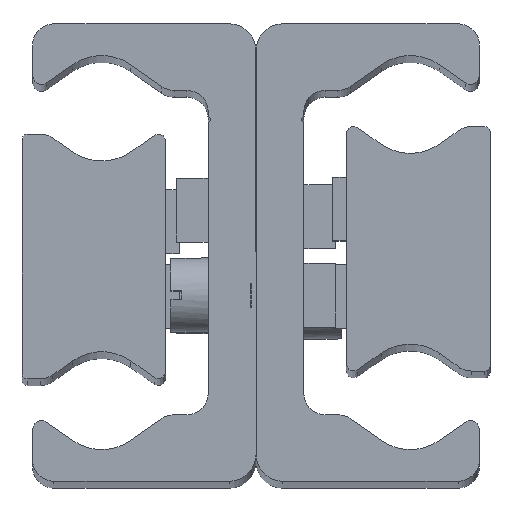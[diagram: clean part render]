
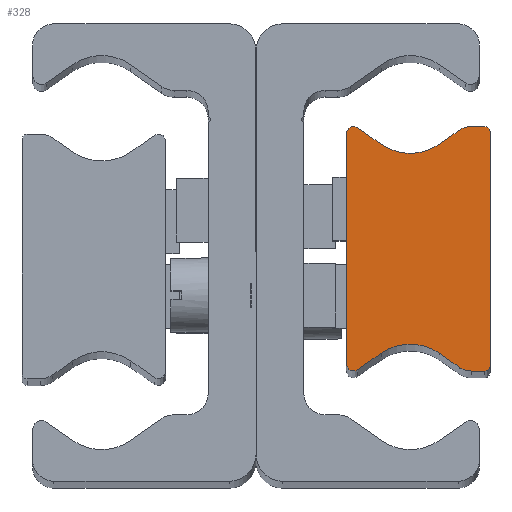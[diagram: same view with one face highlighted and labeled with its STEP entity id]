
A CAD part, top view. The second image highlights one B-rep face of the part: STEP entity #328.
In plain terms, the highlighted planar face has unit normal (0, 0, 1) as drawn and (0, 0, -1) by its records, which use the part's own axes.
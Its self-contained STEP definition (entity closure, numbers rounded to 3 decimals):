
#328 = ADVANCED_FACE( '', ( #716 ), #717, .F. );
#716 = FACE_OUTER_BOUND( '', #1194, .T. );
#717 = PLANE( '', #1195 );
#1194 = EDGE_LOOP( '', ( #1878, #1879, #1880, #1881, #1882, #1883, #1884, #1885, #1886, #1887, #1888, #1889, #1890, #1891, #1892, #1893 ) );
#1195 = AXIS2_PLACEMENT_3D( '', #1894, #1895, #1896 );
#1878 = ORIENTED_EDGE( '', *, *, #2845, .F. );
#1879 = ORIENTED_EDGE( '', *, *, #2812, .F. );
#1880 = ORIENTED_EDGE( '', *, *, #2846, .F. );
#1881 = ORIENTED_EDGE( '', *, *, #2781, .F. );
#1882 = ORIENTED_EDGE( '', *, *, #2847, .F. );
#1883 = ORIENTED_EDGE( '', *, *, #2687, .T. );
#1884 = ORIENTED_EDGE( '', *, *, #2848, .F. );
#1885 = ORIENTED_EDGE( '', *, *, #2849, .F. );
#1886 = ORIENTED_EDGE( '', *, *, #2850, .F. );
#1887 = ORIENTED_EDGE( '', *, *, #2851, .F. );
#1888 = ORIENTED_EDGE( '', *, *, #2852, .F. );
#1889 = ORIENTED_EDGE( '', *, *, #2853, .T. );
#1890 = ORIENTED_EDGE( '', *, *, #2854, .F. );
#1891 = ORIENTED_EDGE( '', *, *, #2835, .F. );
#1892 = ORIENTED_EDGE( '', *, *, #2855, .F. );
#1893 = ORIENTED_EDGE( '', *, *, #2856, .F. );
#1894 = CARTESIAN_POINT( '', ( 0.5, -11., -370. ) );
#1895 = DIRECTION( '', ( 0., 0., 1. ) );
#1896 = DIRECTION( '', ( 1., 0., 0. ) );
#2687 = EDGE_CURVE( '', #3171, #3169, #3172, .T. );
#2781 = EDGE_CURVE( '', #3325, #3327, #3328, .T. );
#2812 = EDGE_CURVE( '', #3377, #3379, #3380, .T. );
#2835 = EDGE_CURVE( '', #3414, #3416, #3417, .T. );
#2845 = EDGE_CURVE( '', #3379, #3431, #3432, .T. );
#2846 = EDGE_CURVE( '', #3327, #3377, #3433, .T. );
#2847 = EDGE_CURVE( '', #3171, #3325, #3434, .T. );
#2848 = EDGE_CURVE( '', #3435, #3169, #3436, .T. );
#2849 = EDGE_CURVE( '', #3437, #3435, #3438, .T. );
#2850 = EDGE_CURVE( '', #3439, #3437, #3440, .T. );
#2851 = EDGE_CURVE( '', #3441, #3439, #3442, .T. );
#2852 = EDGE_CURVE( '', #3443, #3441, #3444, .T. );
#2853 = EDGE_CURVE( '', #3443, #3445, #3446, .T. );
#2854 = EDGE_CURVE( '', #3416, #3445, #3447, .T. );
#2855 = EDGE_CURVE( '', #3448, #3414, #3449, .T. );
#2856 = EDGE_CURVE( '', #3431, #3448, #3450, .T. );
#3169 = VERTEX_POINT( '', #3854 );
#3171 = VERTEX_POINT( '', #3857 );
#3172 = CIRCLE( '', #3858, 4.763 );
#3325 = VERTEX_POINT( '', #4060 );
#3327 = VERTEX_POINT( '', #4063 );
#3328 = CIRCLE( '', #4064, 2. );
#3377 = VERTEX_POINT( '', #4123 );
#3379 = VERTEX_POINT( '', #4126 );
#3380 = CIRCLE( '', #4127, 0.5 );
#3414 = VERTEX_POINT( '', #4167 );
#3416 = VERTEX_POINT( '', #4170 );
#3417 = CIRCLE( '', #4171, 2. );
#3431 = VERTEX_POINT( '', #4189 );
#3432 = LINE( '', #4190, #4191 );
#3433 = LINE( '', #4192, #4193 );
#3434 = LINE( '', #4194, #4195 );
#3435 = VERTEX_POINT( '', #4196 );
#3436 = LINE( '', #4197, #4198 );
#3437 = VERTEX_POINT( '', #4199 );
#3438 = CIRCLE( '', #4200, 0.668 );
#3439 = VERTEX_POINT( '', #4201 );
#3440 = LINE( '', #4202, #4203 );
#3441 = VERTEX_POINT( '', #4204 );
#3442 = CIRCLE( '', #4205, 0.668 );
#3443 = VERTEX_POINT( '', #4206 );
#3444 = LINE( '', #4207, #4208 );
#3445 = VERTEX_POINT( '', #4209 );
#3446 = CIRCLE( '', #4210, 4.763 );
#3447 = LINE( '', #4211, #4212 );
#3448 = VERTEX_POINT( '', #4213 );
#3449 = LINE( '', #4214, #4215 );
#3450 = CIRCLE( '', #4216, 0.5 );
#3854 = CARTESIAN_POINT( '', ( 10.232, 9.827, -370. ) );
#3857 = CARTESIAN_POINT( '', ( 4.768, 9.827, -370. ) );
#3858 = AXIS2_PLACEMENT_3D( '', #4644, #4645, #4646 );
#4060 = CARTESIAN_POINT( '', ( 2.895, 11.138, -370. ) );
#4063 = CARTESIAN_POINT( '', ( 1.748, 11.5, -370. ) );
#4064 = AXIS2_PLACEMENT_3D( '', #4763, #4764, #4765 );
#4123 = CARTESIAN_POINT( '', ( 0.5, 11.5, -370. ) );
#4126 = CARTESIAN_POINT( '', ( 0., 11., -370. ) );
#4127 = AXIS2_PLACEMENT_3D( '', #4813, #4814, #4815 );
#4167 = CARTESIAN_POINT( '', ( 1.748, -11.5, -370. ) );
#4170 = CARTESIAN_POINT( '', ( 2.895, -11.138, -370. ) );
#4171 = AXIS2_PLACEMENT_3D( '', #4850, #4851, #4852 );
#4189 = CARTESIAN_POINT( '', ( 0., -11., -370. ) );
#4190 = CARTESIAN_POINT( '', ( 0., 11., -370. ) );
#4191 = VECTOR( '', #4863, 1000. );
#4192 = CARTESIAN_POINT( '', ( 1.748, 11.5, -370. ) );
#4193 = VECTOR( '', #4864, 1000. );
#4194 = CARTESIAN_POINT( '', ( 4.768, 9.827, -370. ) );
#4195 = VECTOR( '', #4865, 1000. );
#4196 = CARTESIAN_POINT( '', ( 12.449, 11.379, -370. ) );
#4197 = CARTESIAN_POINT( '', ( 12.449, 11.379, -370. ) );
#4198 = VECTOR( '', #4866, 1000. );
#4199 = CARTESIAN_POINT( '', ( 13.5, 10.832, -370. ) );
#4200 = AXIS2_PLACEMENT_3D( '', #4867, #4868, #4869 );
#4201 = CARTESIAN_POINT( '', ( 13.5, -10.832, -370. ) );
#4202 = CARTESIAN_POINT( '', ( 13.5, -10.832, -370. ) );
#4203 = VECTOR( '', #4870, 1000. );
#4204 = CARTESIAN_POINT( '', ( 12.449, -11.379, -370. ) );
#4205 = AXIS2_PLACEMENT_3D( '', #4871, #4872, #4873 );
#4206 = CARTESIAN_POINT( '', ( 10.232, -9.827, -370. ) );
#4207 = CARTESIAN_POINT( '', ( 10.232, -9.827, -370. ) );
#4208 = VECTOR( '', #4874, 1000. );
#4209 = CARTESIAN_POINT( '', ( 4.768, -9.827, -370. ) );
#4210 = AXIS2_PLACEMENT_3D( '', #4875, #4876, #4877 );
#4211 = CARTESIAN_POINT( '', ( 2.895, -11.138, -370. ) );
#4212 = VECTOR( '', #4878, 1000. );
#4213 = CARTESIAN_POINT( '', ( 0.5, -11.5, -370. ) );
#4214 = CARTESIAN_POINT( '', ( 0.5, -11.5, -370. ) );
#4215 = VECTOR( '', #4879, 1000. );
#4216 = AXIS2_PLACEMENT_3D( '', #4880, #4881, #4882 );
#4644 = CARTESIAN_POINT( '', ( 7.5, 13.729, -370. ) );
#4645 = DIRECTION( '', ( 0., 0., 1. ) );
#4646 = DIRECTION( '', ( 1., 0., 0. ) );
#4763 = CARTESIAN_POINT( '', ( 1.748, 9.5, -370. ) );
#4764 = DIRECTION( '', ( 0., 0., 1. ) );
#4765 = DIRECTION( '', ( 1., 0., 0. ) );
#4813 = CARTESIAN_POINT( '', ( 0.5, 11., -370. ) );
#4814 = DIRECTION( '', ( 0., 0., 1. ) );
#4815 = DIRECTION( '', ( 1., 0., 0. ) );
#4850 = CARTESIAN_POINT( '', ( 1.748, -9.5, -370. ) );
#4851 = DIRECTION( '', ( 0., 0., 1. ) );
#4852 = DIRECTION( '', ( 1., 0., 0. ) );
#4863 = DIRECTION( '', ( 0., -1., 0. ) );
#4864 = DIRECTION( '', ( -1., 0., 0. ) );
#4865 = DIRECTION( '', ( -0.819, 0.574, 0. ) );
#4866 = DIRECTION( '', ( -0.819, -0.574, 0. ) );
#4867 = CARTESIAN_POINT( '', ( 12.832, 10.832, -370. ) );
#4868 = DIRECTION( '', ( 0., 0., 1. ) );
#4869 = DIRECTION( '', ( 1., 0., 0. ) );
#4870 = DIRECTION( '', ( 0., 1., 0. ) );
#4871 = CARTESIAN_POINT( '', ( 12.832, -10.832, -370. ) );
#4872 = DIRECTION( '', ( 0., 0., 1. ) );
#4873 = DIRECTION( '', ( 1., 0., 0. ) );
#4874 = DIRECTION( '', ( 0.819, -0.574, 0. ) );
#4875 = CARTESIAN_POINT( '', ( 7.5, -13.729, -370. ) );
#4876 = DIRECTION( '', ( 0., 0., 1. ) );
#4877 = DIRECTION( '', ( 1., 0., 0. ) );
#4878 = DIRECTION( '', ( 0.819, 0.574, 0. ) );
#4879 = DIRECTION( '', ( 1., 0., 0. ) );
#4880 = CARTESIAN_POINT( '', ( 0.5, -11., -370. ) );
#4881 = DIRECTION( '', ( 0., 0., 1. ) );
#4882 = DIRECTION( '', ( 1., 0., 0. ) );
